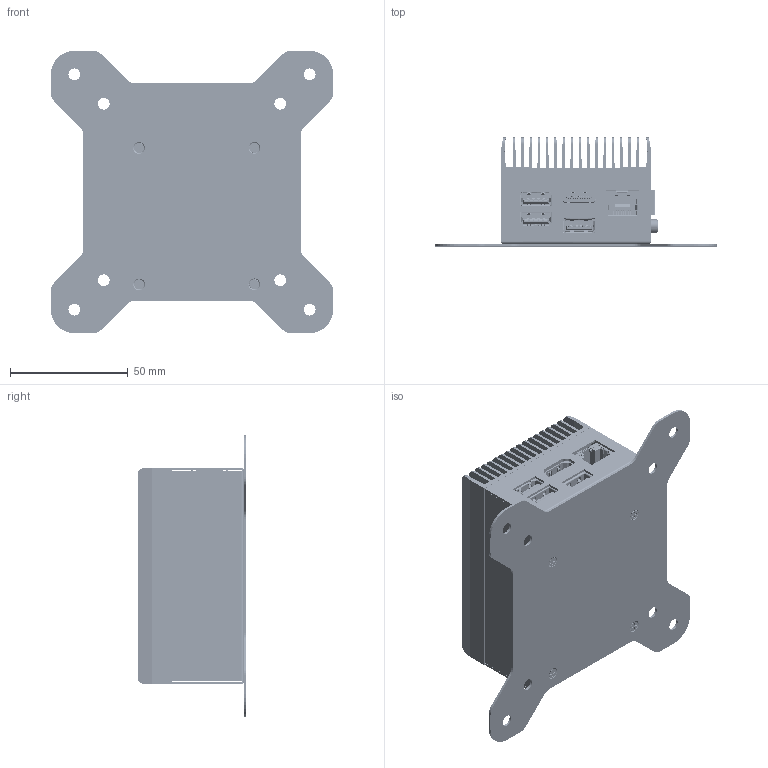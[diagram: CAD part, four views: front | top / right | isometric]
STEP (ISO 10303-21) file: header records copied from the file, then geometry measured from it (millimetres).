
FILE_DESCRIPTION((''),'2;1');
FILE_NAME('00-UP-EDGE-APL03_ASM','2023-03-08T',('WillyChen'),(''),'PRO/ENGINEER BY PARAMETRIC TECHNOLOGY CORPORATION, 2016010','PRO/ENGINEER BY PARAMETRIC TECHNOLOGY CORPORATION, 2016010','');
FILE_SCHEMA(('CONFIG_CONTROL_DESIGN'));
Products named in the file (25): UP-4000_SINK_BASE-N4200; BSO_M2P5_OD4P2_5L_REVERSED; UP-4000_SINK_BASE_ASM; UP-APL03_PCB; UP-APL03-B10_220817-1; 1652503109; 1652814207; 16530X0013; 1654801832_USB; 16549X0019; 1601000990; 16530X0041; 16548X0017; 1654904130; 1655906033_WAFER; 1655X00019; 1655X00040; CPU_APOLLO_LAKE_N4200; 00-UP-APL03_PCB_ASM; S7X0000056; UP-4000_IO_BRACKET; 170X000382; VESA-BKT-APL03; S1B3004030; 00-UP-EDGE-APL03_ASM
Assembly tree (35 placements, depth 3):
  00-UP-EDGE-APL03_ASM
    UP-4000_SINK_BASE_ASM
      UP-4000_SINK_BASE-N4200
      BSO_M2P5_OD4P2_5L_REVERSED  x4
    00-UP-APL03_PCB_ASM
      UP-APL03_PCB
      UP-APL03-B10_220817-1
      1652503109
      1652814207
      16530X0013
      1654801832_USB
      16549X0019
      1601000990
      16530X0041
      16548X0017
      1654904130
      1655906033_WAFER
      1655X00019  x2
      1655X00040
      CPU_APOLLO_LAKE_N4200
    S7X0000056  x4
    UP-4000_IO_BRACKET
    170X000382  x2
    VESA-BKT-APL03
    S1B3004030  x4
Bounding box: 120 x 46.2 x 120 mm (x, y, z)
Volume: 88009.5 mm3; surface area: 154703.6 mm2
Topology: 940 solids, 3258 shells, 19225 faces, 55986 edges, 40930 vertices
Faces by surface type: plane 15685, cylinder 2756, bspline 405, cone 161, torus 152, extrusion 58, sphere 8
Entity records: 639978 total; most frequent: CARTESIAN_POINT 146470, ORIENTED_EDGE 97207, DIRECTION 94520, EDGE_CURVE 54986, VECTOR 46024, LINE 45966, VERTEX_POINT 40284, AXIS2_PLACEMENT_3D 24248
